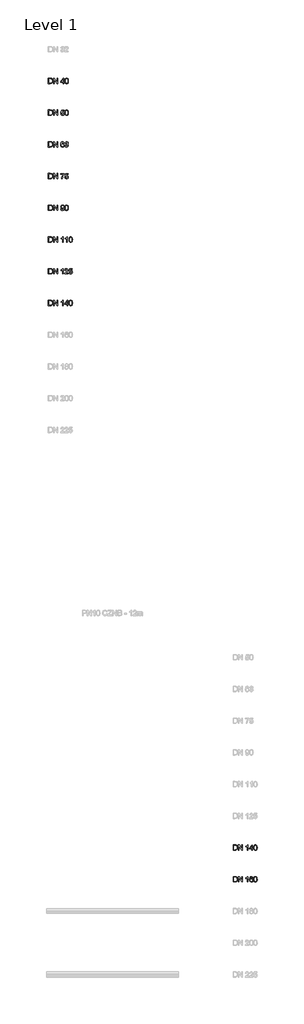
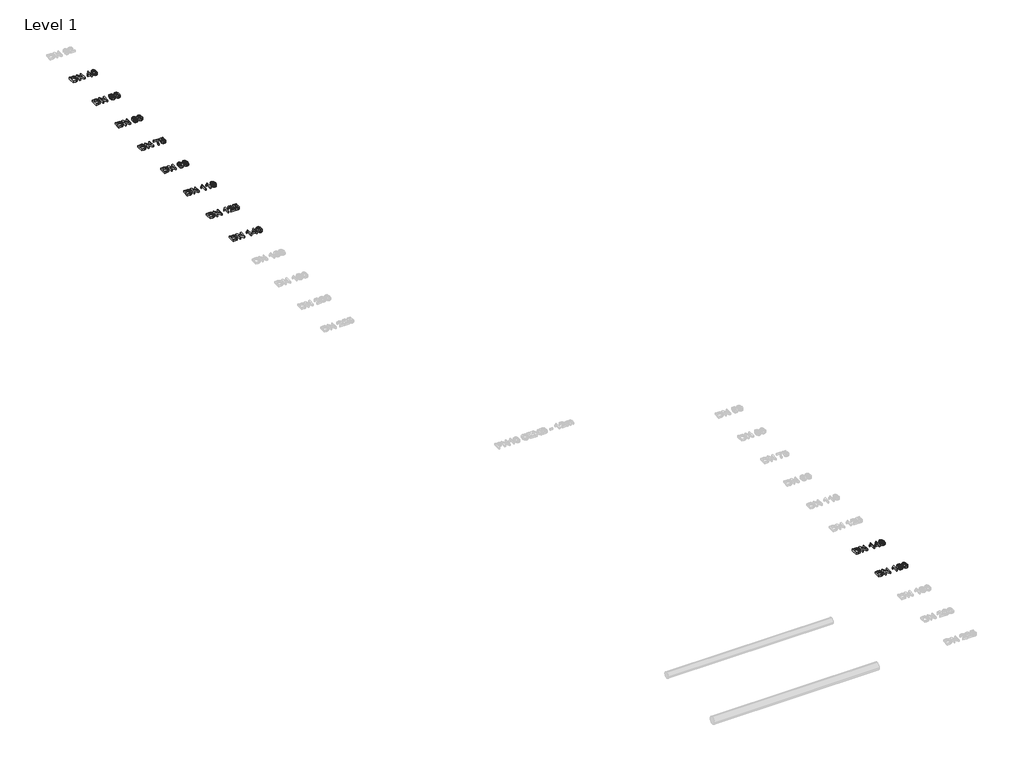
# One storey, part 9 of 13: 10 proxies.
"""IFC4 building model written with IfcOpenShell, lengths in millimetres."""

from ifc_helpers import new_model, si_unit, origin, origin_with_axes, place, context, project, spatial, polyline, outline, extrude, element, save

model = new_model("IFC4")

# Units and contexts
model_context = context("Model", 3, world=origin())
ifc_project = project(units=[si_unit("LENGTHUNIT", "METRE", prefix="MILLI")], contexts=[model_context])

# Site, building, storey
site = spatial("IfcSite", under=ifc_project)
building = spatial("IfcBuilding", under=site)
storey = spatial("IfcBuildingStorey", under=building, Name="Level 1", Elevation=0.0)

# Proxies
placement = place(None, origin())
element("IfcBuildingElementProxy", 1, Name="200mm Arial", ObjectType="200mm Arial", at=placement, inside=storey, context=model_context, shape_type="SweptSolid", body=[
    extrude(outline(polyline([(25539.3076926, -713.949573), (25539.3076926, -513.0369527), (25608.6166605, -513.0369527), (25644.4728923, -515.9309577), (25660.4880218, -521.5105013), (25674.0015538, -530.302881), (25687.8952305, -545.606772), (25697.7912562, -564.6385338), (25703.7141563, -587.0302846), (25705.6884563, -612.4141423), (25700.3419047, -652.9547382), (25686.6076435, -682.2136195), (25668.2625947, -700.436041), (25644.2521631, -710.5160077), (25611.9521239, -713.949573), (25539.3076926, -713.949573)]), holes=[polyline([(25564.4217702, -688.8354954), (25608.8619152, -688.8354954), (25641.1864798, -685.2057264), (25659.8258342, -674.9540815), (25668.5507689, -664.0831685), (25675.1051998, -650.0116822), (25679.207084, -632.6783089), (25680.5743788, -612.0217348), (25677.8949716, -584.6513144), (25669.85675, -564.4423301), (25657.9802929, -550.5609162), (25643.7861793, -542.1732067), (25608.1752021, -538.1510302), (25564.4217702, -538.1510302), (25564.4217702, -688.8354954)])]), origin_with_axes(), (0.0, 0.0, 1.0), 50.0),
    extrude(outline(polyline([(25740.2203129, -713.949573), (25740.2203129, -513.0369527), (25767.100224, -513.0369527), (25872.06922, -672.2072292), (25872.06922, -513.0369527), (25897.1832975, -513.0369527), (25897.1832975, -713.949573), (25870.3033864, -713.949573), (25765.3343905, -554.7302454), (25765.3343905, -713.949573), (25740.2203129, -713.949573)])), origin_with_axes(), (0.0, 0.0, 1.0), 50.0),
    extrude(outline(polyline([(26091.8173985, -713.949573), (26091.8173985, -666.8606776), (26000.7788674, -666.8606776), (26000.7788674, -641.7466), (26098.0959178, -516.1762123), (26116.931476, -516.1762123), (26116.931476, -641.7466), (26142.0455535, -641.7466), (26142.0455535, -666.8606776), (26116.931476, -666.8606776), (26116.931476, -713.949573), (26091.8173985, -713.949573)]), holes=[polyline([(26091.8173985, -641.7466), (26091.8173985, -564.1480245), (26031.680955, -641.7466), (26091.8173985, -641.7466)])]), origin_with_axes(), (0.0, 0.0, 1.0), 50.0),
    extrude(outline(polyline([(26164.0203714, -615.1119436), (26165.8659127, -582.9529258), (26171.4025367, -557.3054194), (26180.5750612, -537.7770168), (26193.3283037, -523.9753106), (26209.7542347, -515.7715422), (26229.9448249, -513.0369527), (26245.4203942, -514.6556334), (26259.2772827, -519.5116758), (26270.8655655, -527.4150073), (26279.5353179, -538.1755557), (26291.3075417, -567.9004209), (26295.8692784, -615.1119436), (26294.0421312, -647.0870203), (26288.5606895, -672.6732131), (26279.4433474, -692.2200098), (26266.708499, -706.0768983), (26250.2457797, -714.335849), (26229.9448249, -717.0888326), (26203.8497287, -712.3063667), (26184.0331519, -697.9589689), (26175.2775604, -682.8298218), (26169.0235665, -663.9789353), (26164.0203714, -615.1119436)]), holes=[polyline([(26189.1344489, -615.0628927), (26192.0775049, -654.5672876), (26200.9066728, -677.4311536), (26214.0523227, -688.3388547), (26229.9448249, -691.9747551), (26245.8373271, -688.326592), (26258.9829771, -677.3821026), (26267.8121449, -654.5059739), (26270.7552009, -615.0628927), (26267.9102468, -576.4475459), (26259.3753845, -553.4058703), (26246.25426, -541.9647402), (26229.6505193, -538.1510302), (26213.9296954, -541.5110191), (26201.2990802, -551.5909857), (26192.1756067, -576.0674012), (26189.1344489, -615.0628927)])]), origin_with_axes(), (0.0, 0.0, 1.0), 50.0),
])
element("IfcBuildingElementProxy", 2, Name="200mm Arial", ObjectType="200mm Arial", at=placement, inside=storey, context=model_context, shape_type="SweptSolid", body=[
    extrude(outline(polyline([(25539.3076926, -1913.949573), (25539.3076926, -1713.0369527), (25608.6166605, -1713.0369527), (25644.4728923, -1715.9309577), (25660.4880218, -1721.5105013), (25674.0015538, -1730.302881), (25687.8952305, -1745.606772), (25697.7912562, -1764.6385338), (25703.7141563, -1787.0302846), (25705.6884563, -1812.4141423), (25700.3419047, -1852.9547382), (25686.6076435, -1882.2136195), (25668.2625947, -1900.436041), (25644.2521631, -1910.5160077), (25611.9521239, -1913.949573), (25539.3076926, -1913.949573)]), holes=[polyline([(25564.4217702, -1888.8354954), (25608.8619152, -1888.8354954), (25641.1864798, -1885.2057264), (25659.8258342, -1874.9540815), (25668.5507689, -1864.0831685), (25675.1051998, -1850.0116822), (25679.207084, -1832.6783089), (25680.5743788, -1812.0217348), (25677.8949716, -1784.6513144), (25669.85675, -1764.4423301), (25657.9802929, -1750.5609162), (25643.7861793, -1742.1732067), (25608.1752021, -1738.1510302), (25564.4217702, -1738.1510302), (25564.4217702, -1888.8354954)])]), origin_with_axes(), (0.0, 0.0, 1.0), 50.0),
    extrude(outline(polyline([(25740.2203129, -1913.949573), (25740.2203129, -1713.0369527), (25767.100224, -1713.0369527), (25872.06922, -1872.2072292), (25872.06922, -1713.0369527), (25897.1832975, -1713.0369527), (25897.1832975, -1913.949573), (25870.3033864, -1913.949573), (25765.3343905, -1754.7302454), (25765.3343905, -1913.949573), (25740.2203129, -1913.949573)])), origin_with_axes(), (0.0, 0.0, 1.0), 50.0),
    extrude(outline(polyline([(26010.1966465, -1860.5821582), (26035.310724, -1857.4428985), (26039.9215117, -1872.5199289), (26047.9658646, -1883.3172655), (26059.4069947, -1889.8103827), (26074.2081136, -1891.9747551), (26092.2098059, -1888.9642541), (26105.6988124, -1879.9327511), (26114.1233101, -1865.9225785), (26116.931476, -1847.9760685), (26114.3011197, -1831.0780222), (26106.4100509, -1818.1531014), (26093.1969559, -1809.9493329), (26074.6005211, -1807.2147434), (26052.5521268, -1811.5802764), (26038.4499837, -1822.9110419), (26013.3359061, -1819.7717822), (26035.310724, -1716.1762123), (26132.6277745, -1716.1762123), (26132.6277745, -1741.2902899), (26055.6178101, -1741.2902899), (26044.8756559, -1796.619742), (26062.8160345, -1785.7304349), (26081.6148045, -1782.1006659), (26105.0795444, -1786.601089), (26124.558896, -1800.1023582), (26137.6738892, -1820.6792244), (26142.0455535, -1846.4064386), (26138.1092162, -1871.5205162), (26126.3002041, -1893.0048247), (26115.8646182, -1903.5415782), (26103.6877242, -1911.0678307), (26089.769522, -1915.5835821), (26074.1100118, -1917.0888326), (26049.443524, -1913.2199403), (26029.7924941, -1901.6132634), (26016.3218817, -1883.6177025), (26010.1966465, -1860.5821582)])), origin_with_axes(), (0.0, 0.0, 1.0), 50.0),
    extrude(outline(polyline([(26164.0203714, -1815.1119436), (26165.8659127, -1782.9529258), (26171.4025367, -1757.3054194), (26180.5750612, -1737.7770168), (26193.3283037, -1723.9753106), (26209.7542347, -1715.7715422), (26229.9448249, -1713.0369527), (26245.4203942, -1714.6556334), (26259.2772827, -1719.5116758), (26270.8655655, -1727.4150073), (26279.5353179, -1738.1755557), (26291.3075417, -1767.9004209), (26295.8692784, -1815.1119436), (26294.0421312, -1847.0870203), (26288.5606895, -1872.6732131), (26279.4433474, -1892.2200098), (26266.708499, -1906.0768983), (26250.2457797, -1914.335849), (26229.9448249, -1917.0888326), (26203.8497287, -1912.3063667), (26184.0331519, -1897.9589689), (26175.2775604, -1882.8298218), (26169.0235665, -1863.9789353), (26164.0203714, -1815.1119436)]), holes=[polyline([(26189.1344489, -1815.0628927), (26192.0775049, -1854.5672876), (26200.9066728, -1877.4311536), (26214.0523227, -1888.3388547), (26229.9448249, -1891.9747551), (26245.8373271, -1888.326592), (26258.9829771, -1877.3821026), (26267.8121449, -1854.5059739), (26270.7552009, -1815.0628927), (26267.9102468, -1776.4475459), (26259.3753845, -1753.4058703), (26246.25426, -1741.9647402), (26229.6505193, -1738.1510302), (26213.9296954, -1741.5110191), (26201.2990802, -1751.5909857), (26192.1756067, -1776.0674012), (26189.1344489, -1815.0628927)])]), origin_with_axes(), (0.0, 0.0, 1.0), 50.0),
])
element("IfcBuildingElementProxy", 3, Name="200mm Arial", ObjectType="200mm Arial", at=placement, inside=storey, context=model_context, shape_type="SweptSolid", body=[
    extrude(outline(polyline([(25539.3076926, -3113.949573), (25539.3076926, -2913.0369527), (25608.6166605, -2913.0369527), (25644.4728923, -2915.9309577), (25660.4880218, -2921.5105013), (25674.0015538, -2930.302881), (25687.8952305, -2945.606772), (25697.7912562, -2964.6385338), (25703.7141563, -2987.0302846), (25705.6884563, -3012.4141423), (25700.3419047, -3052.9547382), (25686.6076435, -3082.2136195), (25668.2625947, -3100.436041), (25644.2521631, -3110.5160077), (25611.9521239, -3113.949573), (25539.3076926, -3113.949573)]), holes=[polyline([(25564.4217702, -3088.8354954), (25608.8619152, -3088.8354954), (25641.1864798, -3085.2057264), (25659.8258342, -3074.9540815), (25668.5507689, -3064.0831685), (25675.1051998, -3050.0116822), (25679.207084, -3032.6783089), (25680.5743788, -3012.0217348), (25677.8949716, -2984.6513144), (25669.85675, -2964.4423301), (25657.9802929, -2950.5609162), (25643.7861793, -2942.1732067), (25608.1752021, -2938.1510302), (25564.4217702, -2938.1510302), (25564.4217702, -3088.8354954)])]), origin_with_axes(), (0.0, 0.0, 1.0), 50.0),
    extrude(outline(polyline([(25740.2203129, -3113.949573), (25740.2203129, -2913.0369527), (25767.100224, -2913.0369527), (25872.06922, -3072.2072292), (25872.06922, -2913.0369527), (25897.1832975, -2913.0369527), (25897.1832975, -3113.949573), (25870.3033864, -3113.949573), (25765.3343905, -2954.7302454), (25765.3343905, -3113.949573), (25740.2203129, -3113.949573)])), origin_with_axes(), (0.0, 0.0, 1.0), 50.0),
    extrude(outline(polyline([(26138.9062938, -2966.4043674), (26113.7922163, -2969.5436271), (26104.2763354, -2948.5988789), (26092.8842562, -2940.7629924), (26079.1132069, -2938.1510302), (26056.451676, -2944.2333458), (26047.0155028, -2953.8411973), (26039.308375, -2967.066555), (26034.1028448, -2985.7733545), (26032.1714643, -3011.8255311), (26042.2452996, -3000.0717013), (26054.3179604, -2991.7882251), (26067.7149964, -2986.8770005), (26081.7619573, -2985.2399256), (26104.9630484, -2989.7158232), (26124.4362687, -3003.143516), (26137.6432323, -3023.6590686), (26142.0455535, -3049.3985455), (26139.9731516, -3067.3818437), (26133.7559459, -3084.0530295), (26123.9089712, -3098.1919608), (26110.9472622, -3108.5784958), (26095.4594302, -3114.9612484), (26078.0340864, -3117.0888326), (26049.5416258, -3111.4479754), (26026.8494381, -3094.5254036), (26018.1904156, -3081.4165418), (26012.0053996, -3064.6533856), (26007.0573868, -3020.1641897), (26012.5510912, -2970.144501), (26019.4182218, -2951.0667539), (26029.0322046, -2935.9437382), (26039.4524621, -2925.9220195), (26051.53432, -2918.763649), (26080.6828367, -2913.0369527), (26102.7189682, -2916.5808825), (26120.3650413, -2927.2126722), (26132.7258763, -2944.0984558), (26138.9062938, -2966.4043674)]), holes=[polyline([(26032.1714643, -3049.0061381), (26037.9839998, -3070.7602267), (26053.4350436, -3086.554627), (26076.0720491, -3091.9747551), (26092.6451329, -3089.1665892), (26105.6742869, -3080.7420915), (26114.1171787, -3067.4983397), (26116.931476, -3050.2324114), (26114.1539669, -3033.6593275), (26105.8214397, -3021.022581), (26092.5715565, -3013.0211476), (26075.0419795, -3010.3540031), (26058.4934211, -3013.0211476), (26044.6549267, -3021.022581), (26035.2923299, -3033.3527592), (26032.1714643, -3049.0061381)])]), origin_with_axes(), (0.0, 0.0, 1.0), 50.0),
    extrude(outline(polyline([(26164.0203714, -3060.5821582), (26189.1344489, -3057.4428985), (26194.7569121, -3073.2250361), (26202.9913374, -3083.8813512), (26214.2423951, -3089.9514041), (26228.9147553, -3091.9747551), (26246.1316327, -3089.1911147), (26259.4244355, -3080.8401934), (26267.9225095, -3068.3812565), (26270.7552009, -3053.2735692), (26267.947035, -3038.9323028), (26259.5225373, -3027.3011004), (26246.7692948, -3019.5939726), (26230.9748945, -3017.02493), (26213.3656097, -3019.7717822), (26216.1615128, -2994.6577047), (26220.1836893, -2994.9520102), (26235.2300629, -2993.1493885), (26248.6822812, -2987.7415231), (26258.1736367, -2978.5935242), (26261.3374218, -2965.5705016), (26259.0442907, -2954.7241141), (26252.1648974, -2945.925603), (26241.6679978, -2940.0946734), (26228.5223479, -2938.1510302), (26215.3521724, -2940.1130675), (26204.5854927, -2945.9991794), (26196.7250807, -2955.809366), (26192.2737086, -2969.5436271), (26167.1596311, -2966.4043674), (26174.5540592, -2943.8532011), (26187.7119719, -2927.0164685), (26205.7136642, -2916.5318316), (26227.6394311, -2913.0369527), (26243.4277, -2914.7598667), (26257.928382, -2919.9286087), (26270.154327, -2928.0833263), (26279.1183849, -2938.7641669), (26284.6182208, -2951.0698196), (26286.4514994, -2964.0989736), (26284.7101913, -2976.2390794), (26279.4862669, -2987.2510138), (26270.8533028, -2996.6320047), (26258.8848752, -3003.87928), (26274.6056991, -3010.2313758), (26286.2552956, -3021.0471064), (26293.4657827, -3035.7378608), (26295.8692784, -3053.7150276), (26291.062287, -3078.191443), (26276.6413128, -3098.645682), (26254.8749614, -3112.478045), (26228.0318385, -3117.0888326), (26203.7516269, -3113.1524953), (26183.984101, -3101.3434833), (26170.2375771, -3083.2804773), (26164.0203714, -3060.5821582)])), origin_with_axes(), (0.0, 0.0, 1.0), 50.0),
])
element("IfcBuildingElementProxy", 4, Name="200mm Arial", ObjectType="200mm Arial", at=placement, inside=storey, context=model_context, shape_type="SweptSolid", body=[
    extrude(outline(polyline([(25539.3076926, -4313.949573), (25539.3076926, -4113.0369527), (25608.6166605, -4113.0369527), (25644.4728923, -4115.9309577), (25660.4880218, -4121.5105013), (25674.0015538, -4130.302881), (25687.8952305, -4145.606772), (25697.7912562, -4164.6385338), (25703.7141563, -4187.0302846), (25705.6884563, -4212.4141423), (25700.3419047, -4252.9547382), (25686.6076435, -4282.2136195), (25668.2625947, -4300.436041), (25644.2521631, -4310.5160077), (25611.9521239, -4313.949573), (25539.3076926, -4313.949573)]), holes=[polyline([(25564.4217702, -4288.8354954), (25608.8619152, -4288.8354954), (25641.1864798, -4285.2057264), (25659.8258342, -4274.9540815), (25668.5507689, -4264.0831685), (25675.1051998, -4250.0116822), (25679.207084, -4232.6783089), (25680.5743788, -4212.0217348), (25677.8949716, -4184.6513144), (25669.85675, -4164.4423301), (25657.9802929, -4150.5609162), (25643.7861793, -4142.1732067), (25608.1752021, -4138.1510302), (25564.4217702, -4138.1510302), (25564.4217702, -4288.8354954)])]), origin_with_axes(), (0.0, 0.0, 1.0), 50.0),
    extrude(outline(polyline([(25740.2203129, -4313.949573), (25740.2203129, -4113.0369527), (25767.100224, -4113.0369527), (25872.06922, -4272.2072292), (25872.06922, -4113.0369527), (25897.1832975, -4113.0369527), (25897.1832975, -4313.949573), (25870.3033864, -4313.949573), (25765.3343905, -4154.7302454), (25765.3343905, -4313.949573), (25740.2203129, -4313.949573)])), origin_with_axes(), (0.0, 0.0, 1.0), 50.0),
    extrude(outline(polyline([(26010.1966465, -4141.2902899), (26010.1966465, -4116.1762123), (26142.0455535, -4116.1762123), (26142.0455535, -4136.4832985), (26123.2529149, -4160.2668695), (26104.6442174, -4190.5129008), (26088.230549, -4224.4622776), (26076.0229981, -4259.3558849), (26066.7033209, -4313.949573), (26041.5892434, -4313.949573), (26044.3054388, -4288.0629432), (26051.5711082, -4257.2957457), (26063.1900479, -4224.6830068), (26078.9660541, -4193.2597531), (26097.3846793, -4164.8531317), (26116.931476, -4141.2902899), (26010.1966465, -4141.2902899)])), origin_with_axes(), (0.0, 0.0, 1.0), 50.0),
    extrude(outline(polyline([(26164.0203714, -4260.5821582), (26189.1344489, -4257.4428985), (26193.7452366, -4272.5199289), (26201.7895895, -4283.3172655), (26213.2307196, -4289.8103827), (26228.0318385, -4291.9747551), (26246.0335308, -4288.9642541), (26259.5225373, -4279.9327511), (26267.947035, -4265.9225785), (26270.7552009, -4247.9760685), (26268.1248446, -4231.0780222), (26260.2337758, -4218.1531014), (26247.0206809, -4209.9493329), (26228.424246, -4207.2147434), (26206.3758518, -4211.5802764), (26192.2737086, -4222.9110419), (26167.1596311, -4219.7717822), (26189.1344489, -4116.1762123), (26286.4514994, -4116.1762123), (26286.4514994, -4141.2902899), (26209.441535, -4141.2902899), (26198.6993808, -4196.619742), (26216.6397594, -4185.7304349), (26235.4385294, -4182.1006659), (26258.9032693, -4186.601089), (26278.3826209, -4200.1023582), (26291.4976141, -4220.6792244), (26295.8692784, -4246.4064386), (26291.9329411, -4271.5205162), (26280.123929, -4293.0048247), (26269.6883431, -4303.5415782), (26257.5114491, -4311.0678307), (26243.5932469, -4315.5835821), (26227.9337367, -4317.0888326), (26203.2672489, -4313.2199403), (26183.616219, -4301.6132634), (26170.1456066, -4283.6177025), (26164.0203714, -4260.5821582)])), origin_with_axes(), (0.0, 0.0, 1.0), 50.0),
])
element("IfcBuildingElementProxy", 5, Name="200mm Arial", ObjectType="200mm Arial", at=placement, inside=storey, context=model_context, shape_type="SweptSolid", body=[
    extrude(outline(polyline([(25539.3076926, -5513.949573), (25539.3076926, -5313.0369527), (25608.6166605, -5313.0369527), (25644.4728923, -5315.9309577), (25660.4880218, -5321.5105013), (25674.0015538, -5330.302881), (25687.8952305, -5345.606772), (25697.7912562, -5364.6385338), (25703.7141563, -5387.0302846), (25705.6884563, -5412.4141423), (25700.3419047, -5452.9547382), (25686.6076435, -5482.2136195), (25668.2625947, -5500.436041), (25644.2521631, -5510.5160077), (25611.9521239, -5513.949573), (25539.3076926, -5513.949573)]), holes=[polyline([(25564.4217702, -5488.8354954), (25608.8619152, -5488.8354954), (25641.1864798, -5485.2057264), (25659.8258342, -5474.9540815), (25668.5507689, -5464.0831685), (25675.1051998, -5450.0116822), (25679.207084, -5432.6783089), (25680.5743788, -5412.0217348), (25677.8949716, -5384.6513144), (25669.85675, -5364.4423301), (25657.9802929, -5350.5609162), (25643.7861793, -5342.1732067), (25608.1752021, -5338.1510302), (25564.4217702, -5338.1510302), (25564.4217702, -5488.8354954)])]), origin_with_axes(), (0.0, 0.0, 1.0), 50.0),
    extrude(outline(polyline([(25740.2203129, -5513.949573), (25740.2203129, -5313.0369527), (25767.100224, -5313.0369527), (25872.06922, -5472.2072292), (25872.06922, -5313.0369527), (25897.1832975, -5313.0369527), (25897.1832975, -5513.949573), (25870.3033864, -5513.949573), (25765.3343905, -5354.7302454), (25765.3343905, -5513.949573), (25740.2203129, -5513.949573)])), origin_with_axes(), (0.0, 0.0, 1.0), 50.0),
    extrude(outline(polyline([(26013.3359061, -5463.7214179), (26038.4499837, -5460.5821582), (26042.7419403, -5474.8375855), (26049.7316982, -5484.5435388), (26059.2475791, -5490.116951), (26071.1179049, -5491.9747551), (26091.4495165, -5487.1922892), (26105.2328285, -5474.4145212), (26113.4488598, -5452.5868562), (26117.0786288, -5423.4506021), (26116.931476, -5418.5455089), (26108.2310668, -5429.1650358), (26096.8451191, -5437.5772708), (26083.5952359, -5443.0587125), (26069.3030203, -5444.8858597), (26046.4023661, -5440.4222249), (26027.3399474, -5427.0313202), (26014.4824717, -5406.3440894), (26010.1966465, -5379.9914758), (26014.6909382, -5352.7682081), (26028.1738133, -5331.4310524), (26048.4257171, -5317.6354776), (26073.227095, -5313.0369527), (26091.9584199, -5315.6611776), (26109.0097504, -5323.5338523), (26123.271309, -5336.2625693), (26133.6333186, -5353.4549212), (26139.9424948, -5377.2200981), (26142.0455535, -5409.6672901), (26139.9486262, -5444.070388), (26133.657844, -5470.6621249), (26123.2283895, -5490.6442486), (26108.7154448, -5505.2185069), (26090.7444093, -5514.1212512), (26069.9406825, -5517.0888326), (26048.4686367, -5513.5878223), (26031.3375984, -5503.0847914), (26019.3569081, -5486.2419274), (26013.3359061, -5463.7214179)]), holes=[polyline([(26116.931476, -5379.4028646), (26114.221412, -5362.3821909), (26106.0912199, -5349.2855919), (26093.4728674, -5340.9346706), (26077.2983224, -5338.1510302), (26060.5229034, -5341.1492685), (26047.0829478, -5350.1439832), (26038.25378, -5363.9089012), (26035.310724, -5381.2177491), (26038.0943644, -5396.7362379), (26046.4452857, -5409.0541534), (26059.5541475, -5417.092375), (26076.6116093, -5419.7717822), (26092.6573957, -5417.092375), (26105.5761851, -5409.0541534), (26114.0926533, -5396.2825168), (26116.931476, -5379.4028646)])]), origin_with_axes(), (0.0, 0.0, 1.0), 50.0),
    extrude(outline(polyline([(26164.0203714, -5415.1119436), (26165.8659127, -5382.9529258), (26171.4025367, -5357.3054194), (26180.5750612, -5337.7770168), (26193.3283037, -5323.9753106), (26209.7542347, -5315.7715422), (26229.9448249, -5313.0369527), (26245.4203942, -5314.6556334), (26259.2772827, -5319.5116758), (26270.8655655, -5327.4150073), (26279.5353179, -5338.1755557), (26291.3075417, -5367.9004209), (26295.8692784, -5415.1119436), (26294.0421312, -5447.0870203), (26288.5606895, -5472.6732131), (26279.4433474, -5492.2200098), (26266.708499, -5506.0768983), (26250.2457797, -5514.335849), (26229.9448249, -5517.0888326), (26203.8497287, -5512.3063667), (26184.0331519, -5497.9589689), (26175.2775604, -5482.8298218), (26169.0235665, -5463.9789353), (26164.0203714, -5415.1119436)]), holes=[polyline([(26189.1344489, -5415.0628927), (26192.0775049, -5454.5672876), (26200.9066728, -5477.4311536), (26214.0523227, -5488.3388547), (26229.9448249, -5491.9747551), (26245.8373271, -5488.326592), (26258.9829771, -5477.3821026), (26267.8121449, -5454.5059739), (26270.7552009, -5415.0628927), (26267.9102468, -5376.4475459), (26259.3753845, -5353.4058703), (26246.25426, -5341.9647402), (26229.6505193, -5338.1510302), (26213.9296954, -5341.5110191), (26201.2990802, -5351.5909857), (26192.1756067, -5376.0674012), (26189.1344489, -5415.0628927)])]), origin_with_axes(), (0.0, 0.0, 1.0), 50.0),
])
element("IfcBuildingElementProxy", 6, Name="200mm Arial", ObjectType="200mm Arial", at=placement, inside=storey, context=model_context, shape_type="SweptSolid", body=[
    extrude(outline(polyline([(25539.3076926, -6713.949573), (25539.3076926, -6513.0369527), (25608.6166605, -6513.0369527), (25644.4728923, -6515.9309577), (25660.4880218, -6521.5105013), (25674.0015538, -6530.302881), (25687.8952305, -6545.606772), (25697.7912562, -6564.6385338), (25703.7141563, -6587.0302846), (25705.6884563, -6612.4141423), (25700.3419047, -6652.9547382), (25686.6076435, -6682.2136195), (25668.2625947, -6700.436041), (25644.2521631, -6710.5160077), (25611.9521239, -6713.949573), (25539.3076926, -6713.949573)]), holes=[polyline([(25564.4217702, -6688.8354954), (25608.8619152, -6688.8354954), (25641.1864798, -6685.2057264), (25659.8258342, -6674.9540815), (25668.5507689, -6664.0831685), (25675.1051998, -6650.0116822), (25679.207084, -6632.6783089), (25680.5743788, -6612.0217348), (25677.8949716, -6584.6513144), (25669.85675, -6564.4423301), (25657.9802929, -6550.5609162), (25643.7861793, -6542.1732067), (25608.1752021, -6538.1510302), (25564.4217702, -6538.1510302), (25564.4217702, -6688.8354954)])]), origin_with_axes(), (0.0, 0.0, 1.0), 50.0),
    extrude(outline(polyline([(25740.2203129, -6713.949573), (25740.2203129, -6513.0369527), (25767.100224, -6513.0369527), (25872.06922, -6672.2072292), (25872.06922, -6513.0369527), (25897.1832975, -6513.0369527), (25897.1832975, -6713.949573), (25870.3033864, -6713.949573), (25765.3343905, -6554.7302454), (25765.3343905, -6713.949573), (25740.2203129, -6713.949573)])), origin_with_axes(), (0.0, 0.0, 1.0), 50.0),
    extrude(outline(polyline([(26104.3744372, -6713.949573), (26079.2603597, -6713.949573), (26079.2603597, -6557.3789958), (26055.4706573, -6574.3260931), (26029.0322046, -6587.0057592), (26029.0322046, -6563.2651077), (26065.8449296, -6539.769711), (26079.315542, -6526.1948653), (26088.1876294, -6513.0369527), (26104.3744372, -6513.0369527), (26104.3744372, -6713.949573)])), origin_with_axes(), (0.0, 0.0, 1.0), 50.0),
    extrude(outline(polyline([(26258.1981621, -6713.949573), (26233.0840846, -6713.949573), (26233.0840846, -6557.3789958), (26209.2943822, -6574.3260931), (26182.8559295, -6587.0057592), (26182.8559295, -6563.2651077), (26219.6686545, -6539.769711), (26233.1392669, -6526.1948653), (26242.0113543, -6513.0369527), (26258.1981621, -6513.0369527), (26258.1981621, -6713.949573)])), origin_with_axes(), (0.0, 0.0, 1.0), 50.0),
    extrude(outline(polyline([(26317.8440963, -6615.1119436), (26319.6896376, -6582.9529258), (26325.2262617, -6557.3054194), (26334.3987861, -6537.7770168), (26347.1520286, -6523.9753106), (26363.5779597, -6515.7715422), (26383.7685498, -6513.0369527), (26399.2441191, -6514.6556334), (26413.1010076, -6519.5116758), (26424.6892904, -6527.4150073), (26433.3590428, -6538.1755557), (26445.1312666, -6567.9004209), (26449.6930034, -6615.1119436), (26447.8658561, -6647.0870203), (26442.3844144, -6672.6732131), (26433.2670723, -6692.2200098), (26420.5322239, -6706.0768983), (26404.0695046, -6714.335849), (26383.7685498, -6717.0888326), (26357.6734536, -6712.3063667), (26337.8568768, -6697.9589689), (26329.1012853, -6682.8298218), (26322.8472914, -6663.9789353), (26317.8440963, -6615.1119436)]), holes=[polyline([(26342.9581738, -6615.0628927), (26345.9012298, -6654.5672876), (26354.7303977, -6677.4311536), (26367.8760476, -6688.3388547), (26383.7685498, -6691.9747551), (26399.661052, -6688.326592), (26412.806702, -6677.3821026), (26421.6358699, -6654.5059739), (26424.5789258, -6615.0628927), (26421.7339717, -6576.4475459), (26413.1991094, -6553.4058703), (26400.0779849, -6541.9647402), (26383.4742442, -6538.1510302), (26367.7534203, -6541.5110191), (26355.1228051, -6551.5909857), (26345.9993317, -6576.0674012), (26342.9581738, -6615.0628927)])]), origin_with_axes(), (0.0, 0.0, 1.0), 50.0),
])
element("IfcBuildingElementProxy", 7, Name="200mm Arial", ObjectType="200mm Arial", at=placement, inside=storey, context=model_context, shape_type="SweptSolid", body=[
    extrude(outline(polyline([(25539.3076926, -7913.949573), (25539.3076926, -7713.0369527), (25608.6166605, -7713.0369527), (25644.4728923, -7715.9309577), (25660.4880218, -7721.5105013), (25674.0015538, -7730.302881), (25687.8952305, -7745.606772), (25697.7912562, -7764.6385338), (25703.7141563, -7787.0302846), (25705.6884563, -7812.4141423), (25700.3419047, -7852.9547382), (25686.6076435, -7882.2136195), (25668.2625947, -7900.436041), (25644.2521631, -7910.5160077), (25611.9521239, -7913.949573), (25539.3076926, -7913.949573)]), holes=[polyline([(25564.4217702, -7888.8354954), (25608.8619152, -7888.8354954), (25641.1864798, -7885.2057264), (25659.8258342, -7874.9540815), (25668.5507689, -7864.0831685), (25675.1051998, -7850.0116822), (25679.207084, -7832.6783089), (25680.5743788, -7812.0217348), (25677.8949716, -7784.6513144), (25669.85675, -7764.4423301), (25657.9802929, -7750.5609162), (25643.7861793, -7742.1732067), (25608.1752021, -7738.1510302), (25564.4217702, -7738.1510302), (25564.4217702, -7888.8354954)])]), origin_with_axes(), (0.0, 0.0, 1.0), 50.0),
    extrude(outline(polyline([(25740.2203129, -7913.949573), (25740.2203129, -7713.0369527), (25767.100224, -7713.0369527), (25872.06922, -7872.2072292), (25872.06922, -7713.0369527), (25897.1832975, -7713.0369527), (25897.1832975, -7913.949573), (25870.3033864, -7913.949573), (25765.3343905, -7754.7302454), (25765.3343905, -7913.949573), (25740.2203129, -7913.949573)])), origin_with_axes(), (0.0, 0.0, 1.0), 50.0),
    extrude(outline(polyline([(26104.3744372, -7913.949573), (26079.2603597, -7913.949573), (26079.2603597, -7757.3789958), (26055.4706573, -7774.3260931), (26029.0322046, -7787.0057592), (26029.0322046, -7763.2651077), (26065.8449296, -7739.769711), (26079.315542, -7726.1948653), (26088.1876294, -7713.0369527), (26104.3744372, -7713.0369527), (26104.3744372, -7913.949573)])), origin_with_axes(), (0.0, 0.0, 1.0), 50.0),
    extrude(outline(polyline([(26292.7300188, -7888.8354954), (26292.7300188, -7913.949573), (26160.8811117, -7913.949573), (26163.578913, -7896.6345937), (26178.833753, -7869.9754118), (26210.2754009, -7840.8636832), (26253.6364254, -7799.0232377), (26261.7666175, -7784.6022634), (26264.4766815, -7770.5736967), (26261.9199017, -7757.9982638), (26254.2495621, -7747.5442838), (26242.4589441, -7740.4993436), (26227.5413292, -7738.1510302), (26211.8756876, -7740.4441613), (26199.7049249, -7747.3235546), (26191.8506443, -7758.2496499), (26189.1344489, -7772.6828868), (26164.0203714, -7769.5436271), (26170.1088184, -7745.2511527), (26183.2728625, -7727.5069778), (26202.8257905, -7716.6544589), (26228.0808895, -7713.0369527), (26253.5199294, -7717.0591291), (26273.0360693, -7729.1256586), (26285.4520866, -7747.1518763), (26289.5907591, -7769.0531178), (26285.1271242, -7792.8673456), (26270.289217, -7817.4909138), (26234.3103579, -7851.9001431), (26205.4193586, -7876.0577275), (26194.0885931, -7888.8354954), (26292.7300188, -7888.8354954)])), origin_with_axes(), (0.0, 0.0, 1.0), 50.0),
    extrude(outline(polyline([(26317.8440963, -7860.5821582), (26342.9581738, -7857.4428985), (26347.5689615, -7872.5199289), (26355.6133145, -7883.3172655), (26367.0544445, -7889.8103827), (26381.8555634, -7891.9747551), (26399.8572557, -7888.9642541), (26413.3462622, -7879.9327511), (26421.7707599, -7865.9225785), (26424.5789258, -7847.9760685), (26421.9485696, -7831.0780222), (26414.0575008, -7818.1531014), (26400.8444058, -7809.9493329), (26382.2479709, -7807.2147434), (26360.1995767, -7811.5802764), (26346.0974335, -7822.9110419), (26320.983356, -7819.7717822), (26342.9581738, -7716.1762123), (26440.2752243, -7716.1762123), (26440.2752243, -7741.2902899), (26363.26526, -7741.2902899), (26352.5231057, -7796.619742), (26370.4634843, -7785.7304349), (26389.2622543, -7782.1006659), (26412.7269942, -7786.601089), (26432.2063459, -7800.1023582), (26445.321339, -7820.6792244), (26449.6930034, -7846.4064386), (26445.756666, -7871.5205162), (26433.947654, -7893.0048247), (26423.512068, -7903.5415782), (26411.335174, -7911.0678307), (26397.4169718, -7915.5835821), (26381.7574616, -7917.0888326), (26357.0909738, -7913.2199403), (26337.4399439, -7901.6132634), (26323.9693315, -7883.6177025), (26317.8440963, -7860.5821582)])), origin_with_axes(), (0.0, 0.0, 1.0), 50.0),
])
element("IfcBuildingElementProxy", 8, Name="200mm Arial", ObjectType="200mm Arial", at=placement, inside=storey, context=model_context, shape_type="SweptSolid", body=[
    extrude(outline(polyline([(25539.3076926, -9113.949573), (25539.3076926, -8913.0369527), (25608.6166605, -8913.0369527), (25644.4728923, -8915.9309577), (25660.4880218, -8921.5105013), (25674.0015538, -8930.302881), (25687.8952305, -8945.606772), (25697.7912562, -8964.6385338), (25703.7141563, -8987.0302846), (25705.6884563, -9012.4141423), (25700.3419047, -9052.9547382), (25686.6076435, -9082.2136195), (25668.2625947, -9100.436041), (25644.2521631, -9110.5160077), (25611.9521239, -9113.949573), (25539.3076926, -9113.949573)]), holes=[polyline([(25564.4217702, -9088.8354954), (25608.8619152, -9088.8354954), (25641.1864798, -9085.2057264), (25659.8258342, -9074.9540815), (25668.5507689, -9064.0831685), (25675.1051998, -9050.0116822), (25679.207084, -9032.6783089), (25680.5743788, -9012.0217348), (25677.8949716, -8984.6513144), (25669.85675, -8964.4423301), (25657.9802929, -8950.5609162), (25643.7861793, -8942.1732067), (25608.1752021, -8938.1510302), (25564.4217702, -8938.1510302), (25564.4217702, -9088.8354954)])]), origin_with_axes(), (0.0, 0.0, 1.0), 50.0),
    extrude(outline(polyline([(25740.2203129, -9113.949573), (25740.2203129, -8913.0369527), (25767.100224, -8913.0369527), (25872.06922, -9072.2072292), (25872.06922, -8913.0369527), (25897.1832975, -8913.0369527), (25897.1832975, -9113.949573), (25870.3033864, -9113.949573), (25765.3343905, -8954.7302454), (25765.3343905, -9113.949573), (25740.2203129, -9113.949573)])), origin_with_axes(), (0.0, 0.0, 1.0), 50.0),
    extrude(outline(polyline([(26104.3744372, -9113.949573), (26079.2603597, -9113.949573), (26079.2603597, -8957.3789958), (26055.4706573, -8974.3260931), (26029.0322046, -8987.0057592), (26029.0322046, -8963.2651077), (26065.8449296, -8939.769711), (26079.315542, -8926.1948653), (26088.1876294, -8913.0369527), (26104.3744372, -8913.0369527), (26104.3744372, -9113.949573)])), origin_with_axes(), (0.0, 0.0, 1.0), 50.0),
    extrude(outline(polyline([(26245.6411234, -9113.949573), (26245.6411234, -9066.8606776), (26154.6025923, -9066.8606776), (26154.6025923, -9041.7466), (26251.9196428, -8916.1762123), (26270.7552009, -8916.1762123), (26270.7552009, -9041.7466), (26295.8692784, -9041.7466), (26295.8692784, -9066.8606776), (26270.7552009, -9066.8606776), (26270.7552009, -9113.949573), (26245.6411234, -9113.949573)]), holes=[polyline([(26245.6411234, -9041.7466), (26245.6411234, -8964.1480245), (26185.5046799, -9041.7466), (26245.6411234, -9041.7466)])]), origin_with_axes(), (0.0, 0.0, 1.0), 50.0),
    extrude(outline(polyline([(26317.8440963, -9015.1119436), (26319.6896376, -8982.9529258), (26325.2262617, -8957.3054194), (26334.3987861, -8937.7770168), (26347.1520286, -8923.9753106), (26363.5779597, -8915.7715422), (26383.7685498, -8913.0369527), (26399.2441191, -8914.6556334), (26413.1010076, -8919.5116758), (26424.6892904, -8927.4150073), (26433.3590428, -8938.1755557), (26445.1312666, -8967.9004209), (26449.6930034, -9015.1119436), (26447.8658561, -9047.0870203), (26442.3844144, -9072.6732131), (26433.2670723, -9092.2200098), (26420.5322239, -9106.0768983), (26404.0695046, -9114.335849), (26383.7685498, -9117.0888326), (26357.6734536, -9112.3063667), (26337.8568768, -9097.9589689), (26329.1012853, -9082.8298218), (26322.8472914, -9063.9789353), (26317.8440963, -9015.1119436)]), holes=[polyline([(26342.9581738, -9015.0628927), (26345.9012298, -9054.5672876), (26354.7303977, -9077.4311536), (26367.8760476, -9088.3388547), (26383.7685498, -9091.9747551), (26399.661052, -9088.326592), (26412.806702, -9077.3821026), (26421.6358699, -9054.5059739), (26424.5789258, -9015.0628927), (26421.7339717, -8976.4475459), (26413.1991094, -8953.4058703), (26400.0779849, -8941.9647402), (26383.4742442, -8938.1510302), (26367.7534203, -8941.5110191), (26355.1228051, -8951.5909857), (26345.9993317, -8976.0674012), (26342.9581738, -9015.0628927)])]), origin_with_axes(), (0.0, 0.0, 1.0), 50.0),
])
element("IfcBuildingElementProxy", 9, Name="200mm Arial", ObjectType="200mm Arial", at=placement, inside=storey, context=model_context, shape_type="SweptSolid", body=[
    extrude(outline(polyline([(32539.3076926, -30913.949573), (32539.3076926, -30713.0369527), (32608.6166605, -30713.0369527), (32644.4728923, -30715.9309577), (32660.4880218, -30721.5105013), (32674.0015538, -30730.302881), (32687.8952305, -30745.606772), (32697.7912562, -30764.6385338), (32703.7141563, -30787.0302846), (32705.6884563, -30812.4141423), (32700.3419047, -30852.9547382), (32686.6076435, -30882.2136195), (32668.2625947, -30900.436041), (32644.2521631, -30910.5160077), (32611.9521239, -30913.949573), (32539.3076926, -30913.949573)]), holes=[polyline([(32564.4217702, -30888.8354954), (32608.8619152, -30888.8354954), (32641.1864798, -30885.2057264), (32659.8258342, -30874.9540815), (32668.5507689, -30864.0831685), (32675.1051998, -30850.0116822), (32679.207084, -30832.6783089), (32680.5743788, -30812.0217348), (32677.8949716, -30784.6513144), (32669.85675, -30764.4423301), (32657.9802929, -30750.5609162), (32643.7861793, -30742.1732067), (32608.1752021, -30738.1510302), (32564.4217702, -30738.1510302), (32564.4217702, -30888.8354954)])]), origin_with_axes(), (0.0, 0.0, 1.0), 50.0),
    extrude(outline(polyline([(32740.2203129, -30913.949573), (32740.2203129, -30713.0369527), (32767.100224, -30713.0369527), (32872.06922, -30872.2072292), (32872.06922, -30713.0369527), (32897.1832975, -30713.0369527), (32897.1832975, -30913.949573), (32870.3033864, -30913.949573), (32765.3343905, -30754.7302454), (32765.3343905, -30913.949573), (32740.2203129, -30913.949573)])), origin_with_axes(), (0.0, 0.0, 1.0), 50.0),
    extrude(outline(polyline([(33104.3744372, -30913.949573), (33079.2603597, -30913.949573), (33079.2603597, -30757.3789958), (33055.4706573, -30774.3260931), (33029.0322046, -30787.0057592), (33029.0322046, -30763.2651077), (33065.8449296, -30739.769711), (33079.315542, -30726.1948653), (33088.1876294, -30713.0369527), (33104.3744372, -30713.0369527), (33104.3744372, -30913.949573)])), origin_with_axes(), (0.0, 0.0, 1.0), 50.0),
    extrude(outline(polyline([(33292.7300188, -30766.4043674), (33267.6159412, -30769.5436271), (33258.1000603, -30748.5988789), (33246.7079812, -30740.7629924), (33232.9369318, -30738.1510302), (33210.2754009, -30744.2333458), (33200.8392277, -30753.8411973), (33193.1320999, -30767.066555), (33187.9265697, -30785.7733545), (33185.9951892, -30811.8255311), (33196.0690245, -30800.0717013), (33208.1416853, -30791.7882251), (33221.5387213, -30786.8770005), (33235.5856822, -30785.2399256), (33258.7867733, -30789.7158232), (33278.2599936, -30803.143516), (33291.4669572, -30823.6590686), (33295.8692784, -30849.3985455), (33293.7968765, -30867.3818437), (33287.5796708, -30884.0530295), (33277.7326961, -30898.1919608), (33264.7709871, -30908.5784958), (33249.2831551, -30914.9612484), (33231.8578113, -30917.0888326), (33203.3653508, -30911.4479754), (33180.673163, -30894.5254036), (33172.0141406, -30881.4165418), (33165.8291245, -30864.6533856), (33160.8811117, -30820.1641897), (33166.3748161, -30770.144501), (33173.2419467, -30751.0667539), (33182.8559295, -30735.9437382), (33193.276187, -30725.9220195), (33205.3580449, -30718.763649), (33234.5065616, -30713.0369527), (33256.5426932, -30716.5808825), (33274.1887662, -30727.2126722), (33286.5496012, -30744.0984558), (33292.7300188, -30766.4043674)]), holes=[polyline([(33185.9951892, -30849.0061381), (33191.8077247, -30870.7602267), (33207.2587685, -30886.554627), (33229.895774, -30891.9747551), (33246.4688579, -30889.1665892), (33259.4980119, -30880.7420915), (33267.9409036, -30867.4983397), (33270.7552009, -30850.2324114), (33267.9776918, -30833.6593275), (33259.6451647, -30821.022581), (33246.3952815, -30813.0211476), (33228.8657044, -30810.3540031), (33212.317146, -30813.0211476), (33198.4786516, -30821.022581), (33189.1160548, -30833.3527592), (33185.9951892, -30849.0061381)])]), origin_with_axes(), (0.0, 0.0, 1.0), 50.0),
    extrude(outline(polyline([(33317.8440963, -30815.1119436), (33319.6896376, -30782.9529258), (33325.2262617, -30757.3054194), (33334.3987861, -30737.7770168), (33347.1520286, -30723.9753106), (33363.5779597, -30715.7715422), (33383.7685498, -30713.0369527), (33399.2441191, -30714.6556334), (33413.1010076, -30719.5116758), (33424.6892904, -30727.4150073), (33433.3590428, -30738.1755557), (33445.1312666, -30767.9004209), (33449.6930034, -30815.1119436), (33447.8658561, -30847.0870203), (33442.3844144, -30872.6732131), (33433.2670723, -30892.2200098), (33420.5322239, -30906.0768983), (33404.0695046, -30914.335849), (33383.7685498, -30917.0888326), (33357.6734536, -30912.3063667), (33337.8568768, -30897.9589689), (33329.1012853, -30882.8298218), (33322.8472914, -30863.9789353), (33317.8440963, -30815.1119436)]), holes=[polyline([(33342.9581738, -30815.0628927), (33345.9012298, -30854.5672876), (33354.7303977, -30877.4311536), (33367.8760476, -30888.3388547), (33383.7685498, -30891.9747551), (33399.661052, -30888.326592), (33412.806702, -30877.3821026), (33421.6358699, -30854.5059739), (33424.5789258, -30815.0628927), (33421.7339717, -30776.4475459), (33413.1991094, -30753.4058703), (33400.0779849, -30741.9647402), (33383.4742442, -30738.1510302), (33367.7534203, -30741.5110191), (33355.1228051, -30751.5909857), (33345.9993317, -30776.0674012), (33342.9581738, -30815.0628927)])]), origin_with_axes(), (0.0, 0.0, 1.0), 50.0),
])
element("IfcBuildingElementProxy", 10, Name="200mm Arial", ObjectType="200mm Arial", at=placement, inside=storey, context=model_context, shape_type="SweptSolid", body=[
    extrude(outline(polyline([(32539.3076926, -29713.949573), (32539.3076926, -29513.0369527), (32608.6166605, -29513.0369527), (32644.4728923, -29515.9309577), (32660.4880218, -29521.5105013), (32674.0015538, -29530.302881), (32687.8952305, -29545.606772), (32697.7912562, -29564.6385338), (32703.7141563, -29587.0302846), (32705.6884563, -29612.4141423), (32700.3419047, -29652.9547382), (32686.6076435, -29682.2136195), (32668.2625947, -29700.436041), (32644.2521631, -29710.5160077), (32611.9521239, -29713.949573), (32539.3076926, -29713.949573)]), holes=[polyline([(32564.4217702, -29688.8354954), (32608.8619152, -29688.8354954), (32641.1864798, -29685.2057264), (32659.8258342, -29674.9540815), (32668.5507689, -29664.0831685), (32675.1051998, -29650.0116822), (32679.207084, -29632.6783089), (32680.5743788, -29612.0217348), (32677.8949716, -29584.6513144), (32669.85675, -29564.4423301), (32657.9802929, -29550.5609162), (32643.7861793, -29542.1732067), (32608.1752021, -29538.1510302), (32564.4217702, -29538.1510302), (32564.4217702, -29688.8354954)])]), origin_with_axes(), (0.0, 0.0, 1.0), 50.0),
    extrude(outline(polyline([(32740.2203129, -29713.949573), (32740.2203129, -29513.0369527), (32767.100224, -29513.0369527), (32872.06922, -29672.2072292), (32872.06922, -29513.0369527), (32897.1832975, -29513.0369527), (32897.1832975, -29713.949573), (32870.3033864, -29713.949573), (32765.3343905, -29554.7302454), (32765.3343905, -29713.949573), (32740.2203129, -29713.949573)])), origin_with_axes(), (0.0, 0.0, 1.0), 50.0),
    extrude(outline(polyline([(33104.3744372, -29713.949573), (33079.2603597, -29713.949573), (33079.2603597, -29557.3789958), (33055.4706573, -29574.3260931), (33029.0322046, -29587.0057592), (33029.0322046, -29563.2651077), (33065.8449296, -29539.769711), (33079.315542, -29526.1948653), (33088.1876294, -29513.0369527), (33104.3744372, -29513.0369527), (33104.3744372, -29713.949573)])), origin_with_axes(), (0.0, 0.0, 1.0), 50.0),
    extrude(outline(polyline([(33245.6411234, -29713.949573), (33245.6411234, -29666.8606776), (33154.6025923, -29666.8606776), (33154.6025923, -29641.7466), (33251.9196428, -29516.1762123), (33270.7552009, -29516.1762123), (33270.7552009, -29641.7466), (33295.8692784, -29641.7466), (33295.8692784, -29666.8606776), (33270.7552009, -29666.8606776), (33270.7552009, -29713.949573), (33245.6411234, -29713.949573)]), holes=[polyline([(33245.6411234, -29641.7466), (33245.6411234, -29564.1480245), (33185.5046799, -29641.7466), (33245.6411234, -29641.7466)])]), origin_with_axes(), (0.0, 0.0, 1.0), 50.0),
    extrude(outline(polyline([(33317.8440963, -29615.1119436), (33319.6896376, -29582.9529258), (33325.2262617, -29557.3054194), (33334.3987861, -29537.7770168), (33347.1520286, -29523.9753106), (33363.5779597, -29515.7715422), (33383.7685498, -29513.0369527), (33399.2441191, -29514.6556334), (33413.1010076, -29519.5116758), (33424.6892904, -29527.4150073), (33433.3590428, -29538.1755557), (33445.1312666, -29567.9004209), (33449.6930034, -29615.1119436), (33447.8658561, -29647.0870203), (33442.3844144, -29672.6732131), (33433.2670723, -29692.2200098), (33420.5322239, -29706.0768983), (33404.0695046, -29714.335849), (33383.7685498, -29717.0888326), (33357.6734536, -29712.3063667), (33337.8568768, -29697.9589689), (33329.1012853, -29682.8298218), (33322.8472914, -29663.9789353), (33317.8440963, -29615.1119436)]), holes=[polyline([(33342.9581738, -29615.0628927), (33345.9012298, -29654.5672876), (33354.7303977, -29677.4311536), (33367.8760476, -29688.3388547), (33383.7685498, -29691.9747551), (33399.661052, -29688.326592), (33412.806702, -29677.3821026), (33421.6358699, -29654.5059739), (33424.5789258, -29615.0628927), (33421.7339717, -29576.4475459), (33413.1991094, -29553.4058703), (33400.0779849, -29541.9647402), (33383.4742442, -29538.1510302), (33367.7534203, -29541.5110191), (33355.1228051, -29551.5909857), (33345.9993317, -29576.0674012), (33342.9581738, -29615.0628927)])]), origin_with_axes(), (0.0, 0.0, 1.0), 50.0),
])

save(model, "model.ifc")
